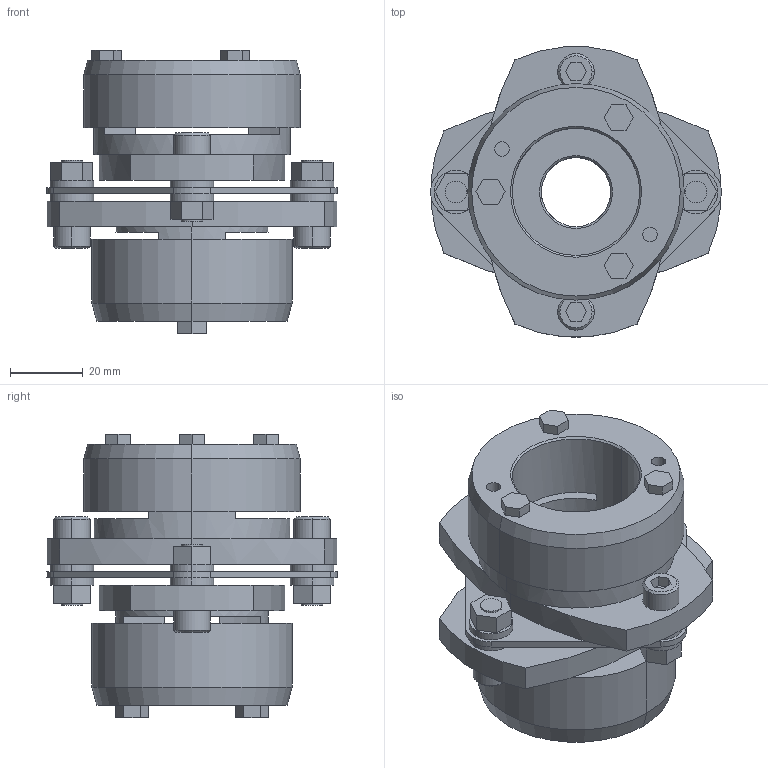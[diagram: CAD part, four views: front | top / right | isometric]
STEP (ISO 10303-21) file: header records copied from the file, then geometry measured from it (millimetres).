
FILE_DESCRIPTION((''),'2;1');
FILE_NAME('LCS-80T7-19×35.stp','2011-09-12T15:32:14',(''),(''),'AutoCAD STEP 2000i','AutoCAD 2000i',', , ');
FILE_SCHEMA(('CONFIG_CONTROL_DESIGN'));
Length unit declared in the file: millimetre
Products named in the file (13): LCS-80T7-19×35; 忣兜1; LC80T7-T035; LC80T7-T032; LC80T7-T030; LC80T7-T028; LC80T7-T024; LC80T7-T022; LC80T7-T019-1; LC80T7-T019; LC80T7-T017-1; LC80T7-T017; LCS80-ITA
Assembly tree (12 placements, depth 2):
  LCS-80T7-19×35
    忣兜1
    LC80T7-T035
    LC80T7-T032
    LC80T7-T030
    LC80T7-T028
    LC80T7-T024
    LC80T7-T022
    LC80T7-T019-1
    LC80T7-T019
    LC80T7-T017-1
    LC80T7-T017
    LCS80-ITA
Bounding box: 80 x 79.95 x 78.05 mm (x, y, z)
Volume: 140053.6 mm3; surface area: 42410.4 mm2
Topology: 1 solids, 1 shells, 228 faces, 558 edges, 364 vertices
Faces by surface type: plane 128, cylinder 80, cone 20
Entity records: 7033 total; most frequent: DIRECTION 1244, CARTESIAN_POINT 1163, ORIENTED_EDGE 1116, EDGE_CURVE 558, AXIS2_PLACEMENT_3D 445, VERTEX_POINT 364, VECTOR 354, LINE 354
